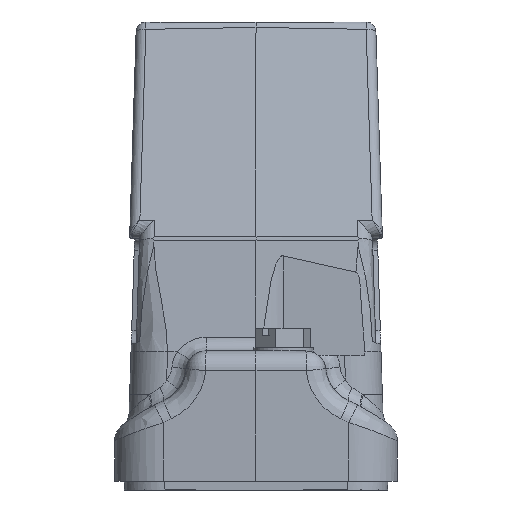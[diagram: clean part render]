
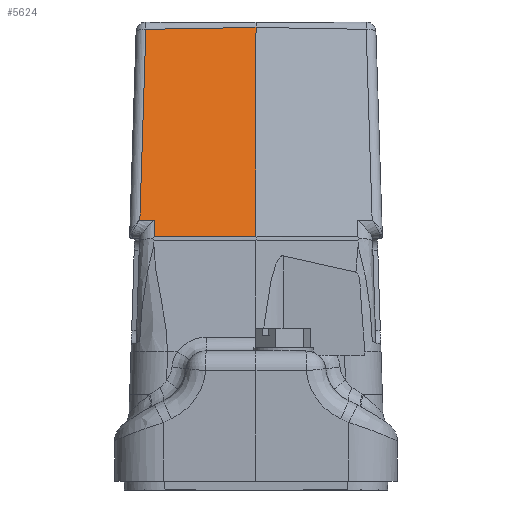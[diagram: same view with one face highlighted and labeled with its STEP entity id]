
A CAD part, left-side view. The second image highlights one B-rep face of the part: STEP entity #5624.
In plain terms, the highlighted planar face has unit normal (-0.966, 0.018, 0.259).
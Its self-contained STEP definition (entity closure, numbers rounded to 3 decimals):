
#3105=LINE('',#23698,#4300);
#3394=LINE('',#24690,#4589);
#3410=LINE('',#24821,#4605);
#3411=LINE('',#24823,#4606);
#3412=LINE('',#24824,#4607);
#3413=LINE('',#24826,#4608);
#4300=VECTOR('',#18811,1.);
#4589=VECTOR('',#19140,1.);
#4605=VECTOR('',#19192,1.);
#4606=VECTOR('',#19193,1.);
#4607=VECTOR('',#19194,1.);
#4608=VECTOR('',#19195,1.);
#5624=ADVANCED_FACE('',(#6884),#6453,.T.);
#6453=PLANE('',#17434);
#6884=FACE_OUTER_BOUND('',#7751,.T.);
#7751=EDGE_LOOP('',(#9434,#9435,#9436,#9437,#9438,#9439));
#9434=ORIENTED_EDGE('',*,*,#15252,.F.);
#9435=ORIENTED_EDGE('',*,*,#15253,.T.);
#9436=ORIENTED_EDGE('',*,*,#15216,.T.);
#9437=ORIENTED_EDGE('',*,*,#15254,.F.);
#9438=ORIENTED_EDGE('',*,*,#15255,.T.);
#9439=ORIENTED_EDGE('',*,*,#14868,.T.);
#13397=VERTEX_POINT('',#23697);
#13398=VERTEX_POINT('',#23699);
#13734=VERTEX_POINT('',#24679);
#13736=VERTEX_POINT('',#24689);
#13763=VERTEX_POINT('',#24822);
#13764=VERTEX_POINT('',#24825);
#14868=EDGE_CURVE('',#13398,#13397,#3105,.T.);
#15216=EDGE_CURVE('',#13734,#13736,#3394,.T.);
#15252=EDGE_CURVE('',#13763,#13397,#3410,.T.);
#15253=EDGE_CURVE('',#13763,#13734,#3411,.T.);
#15254=EDGE_CURVE('',#13764,#13736,#3412,.T.);
#15255=EDGE_CURVE('',#13764,#13398,#3413,.T.);
#17434=AXIS2_PLACEMENT_3D('',#24827,#19196,#19197);
#18811=DIRECTION('',(-0.258,0.03,-0.966));
#19140=DIRECTION('',(-0.017,-1.,0.005));
#19192=DIRECTION('',(0.023,1.,0.017));
#19193=DIRECTION('',(-0.258,0.03,-0.966));
#19194=DIRECTION('',(-0.259,0.,-0.966));
#19195=DIRECTION('',(0.013,1.,-0.017));
#19196=DIRECTION('',(-0.966,0.017,0.259));
#19197=DIRECTION('',(0.259,0.,0.966));
#23697=CARTESIAN_POINT('',(-33.147,23.427,26.589));
#23698=CARTESIAN_POINT('',(-34.067,23.535,23.148));
#23699=CARTESIAN_POINT('',(-22.863,22.218,65.05));
#24679=CARTESIAN_POINT('',(-34.102,20.558,23.219));
#24689=CARTESIAN_POINT('',(-34.449,0.,23.312));
#24690=CARTESIAN_POINT('',(-34.381,4.,23.294));
#24821=CARTESIAN_POINT('',(-33.591,3.93,26.248));
#24822=CARTESIAN_POINT('',(-33.215,20.454,26.537));
#24823=CARTESIAN_POINT('',(-33.972,20.543,23.704));
#24824=CARTESIAN_POINT('',(-34.449,0.,23.312));
#24825=CARTESIAN_POINT('',(-23.161,0.,65.438));
#24826=CARTESIAN_POINT('',(-23.1,4.583,65.358));
#24827=CARTESIAN_POINT('',(-34.381,4.,23.294));
